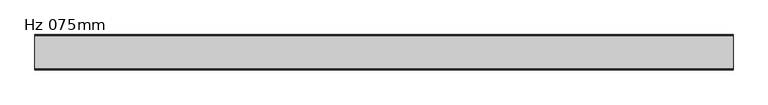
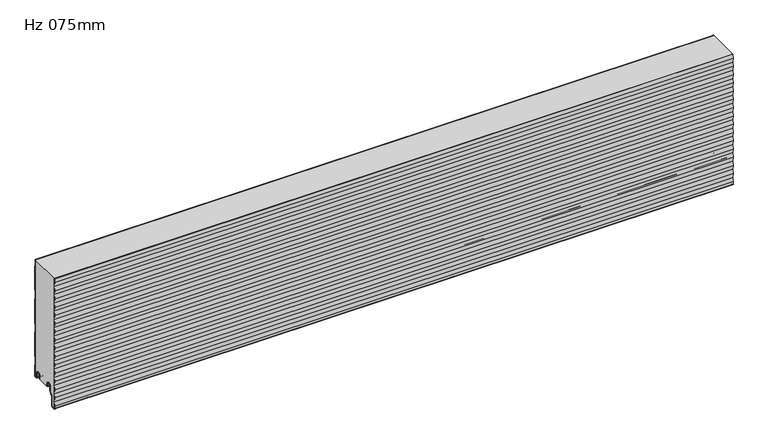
"""IFC4 building model written with IfcOpenShell, lengths in millimetres: plate geometry, KIP-MEX-KSS-1067-R19-CP-Hz-MR_SL : Hz 075mm."""

from ifc_helpers import new_model, si_unit, point, frame, frame_2d, origin, place, context, project, spatial, polyline, circle_curve, trimmed, segment, composite_curve, outline, extrude, source, transform, mapped, element, save
from ifc_brep_helpers import plane_surface, cylinder_surface, revolved_surface, advanced_brep


def hz_075mm_6d015572(model_context):
    return source(origin(), model_context, "Body", "SolidModel", [
        advanced_brep(
        [(-740.0, -17.0015159, 2.0313088), (-740.0, -18.0015191, 1.0313116), (-740.0, -19.0015105, 2.0313088), (-740.0, -19.0015105, 6.0315125), (-740.0, -18.0015159, 6.0315125), (-740.0, -18.0015159, 8.7237223), (-740.0, -14.7015202, 12.023718), (-740.0, -10.301529, 12.023718), (-740.0, -7.0015335, 8.7237225), (-740.0, -7.0015335, -1.6962564), (-740.0, -5.2315393, -3.4662506), (-740.0, -0.9999916, -3.4662506), (-740.0, -0.9999916, 21.034026), (-740.0, -2.2002307, 22.4196686), (-740.0, -2.2002307, 41.7948349), (-740.0, -1.0, 43.1804679), (-740.0, -1.0, 97.2338833), (-740.0, -2.2002307, 98.6195162), (-740.0, -2.2002307, 117.9946825), (-740.0, -1.0, 119.3803155), (-740.0, -1.0, 173.4337309), (-740.0, -2.2002307, 174.8193638), (-740.0, -2.2002307, 194.1945301), (-740.0, -1.0, 195.5801631), (-740.0, -1.0, 249.6335785), (-740.0, -2.2002307, 251.0192114), (-740.0, -2.2002307, 266.0), (-740.0, -1.2002307, 266.0), (-740.0, -1.2002307, 251.3920919), (-740.0, -0.3417885, 250.4010442), (-740.0, 0.0, 249.4844273), (-740.0, 0.0, 195.7293142), (-740.0, -0.3417885, 194.8126973), (-740.0, -1.2002307, 193.8216497), (-740.0, -1.2002307, 175.1922443), (-740.0, -0.3417885, 174.2011966), (-740.0, 0.0, 173.2845797), (-740.0, 0.0, 119.5294666), (-740.0, -0.3417885, 118.6128497), (-740.0, -1.2002307, 117.6218021), (-740.0, -1.2002307, 98.9923967), (-740.0, -0.3417885, 98.001349), (-740.0, 0.0, 97.0847321), (-740.0, 0.0, 43.329619), (-740.0, -0.3417885, 42.4130021), (-740.0, -1.2002307, 41.4219545), (-740.0, -1.2002307, 22.7925491), (-740.0, -0.3417885, 21.8015014), (-740.0, 0.0, 20.8847931), (-740.0, 8.4e-06, -3.0662545), (-740.0, -1.3999878, -4.4662506), (-740.0, -5.2315393, -4.4662506), (-740.0, -8.0015335, -1.6962564), (-740.0, -8.0015335, 8.7237225), (-740.0, -10.301529, 11.023718), (-740.0, -14.7015202, 11.023718), (-740.0, -17.0015159, 8.7237223), (740.0, -17.0015159, 2.0313088), (740.0, -17.0015159, 8.7237223), (740.0, -14.7015202, 11.023718), (740.0, -10.301529, 11.023718), (740.0, -8.0015335, 8.7237225), (740.0, -8.0015335, -1.6962564), (740.0, -5.2315393, -4.4662506), (740.0, -1.3999878, -4.4662506), (740.0, 8.4e-06, -3.0662545), (740.0, 8.4e-06, 20.8848845), (740.0, -0.3417885, 21.8015014), (740.0, -1.2002307, 22.7925491), (740.0, -1.2002307, 41.4219545), (740.0, -0.3417885, 42.4130021), (740.0, 0.0, 43.329619), (740.0, 0.0, 97.0847321), (740.0, -0.3417885, 98.001349), (740.0, -1.2002307, 98.9923967), (740.0, -1.2002307, 117.6218021), (740.0, -0.3417885, 118.6128497), (740.0, 0.0, 119.5294666), (740.0, 0.0, 173.2845797), (740.0, -0.3417885, 174.2011966), (740.0, -1.2002307, 175.1922443), (740.0, -1.2002307, 193.8216497), (740.0, -0.3417885, 194.8126973), (740.0, 0.0, 195.7293142), (740.0, 0.0, 249.4844273), (740.0, -0.3417885, 250.4010442), (740.0, -1.2002307, 251.3920919), (740.0, -1.2002307, 266.0), (740.0, -2.2002307, 266.0), (740.0, -2.2002307, 251.0192114), (740.0, -1.0, 249.6335785), (740.0, -1.0, 195.5801631), (740.0, -2.2002307, 194.1945301), (740.0, -2.2002307, 174.8193638), (740.0, -1.0, 173.4337309), (740.0, -1.0, 119.3803155), (740.0, -2.2002307, 117.9946825), (740.0, -2.2002307, 98.6195162), (740.0, -1.0, 97.2338833), (740.0, -1.0, 43.1804679), (740.0, -2.2002307, 41.7948349), (740.0, -2.2002307, 22.4196686), (740.0, -0.9999916, 21.034026), (740.0, -0.9999916, -3.4662506), (740.0, -5.2315393, -3.4662506), (740.0, -7.0015335, -1.6962564), (740.0, -7.0015335, 8.7237225), (740.0, -10.301529, 12.023718), (740.0, -14.7015202, 12.023718), (740.0, -18.0015159, 8.7237223), (740.0, -18.0015159, 6.0315125), (740.0, -19.0015105, 6.0315125), (740.0, -19.0015105, 2.0313088), (740.0, -18.0015192, 1.0313116)],
        [
            (0, 1, circle_curve(frame((-740.0, -18.0015132, 2.0313088), z_axis=(-1.0, 0.0, 0.0), x_axis=(0.0, 0.0, 1.0)), 0.9999973)),
            (1, 2, circle_curve(frame((-740.0, -18.0015133, 2.0313088), z_axis=(-1.0, 0.0, 0.0), x_axis=(0.0, 0.0, 1.0)), 0.9999972)),
            (2, 3),
            (3, 4),
            (4, 5),
            (5, 6, circle_curve(frame((-740.0, -14.7015202, 8.7237223), z_axis=(-1.0, 0.0, 0.0), x_axis=(0.0, 0.0, 1.0)), 3.2999957)),
            (6, 7),
            (7, 8, circle_curve(frame((-740.0, -10.301529, 8.7237225), z_axis=(-1.0, 0.0, 0.0), x_axis=(0.0, 0.0, 1.0)), 3.2999955)),
            (8, 9),
            (9, 10, circle_curve(frame((-740.0, -5.2315393, -1.6962564), z_axis=(1.0, 0.0, 0.0), x_axis=(0.0, 0.0, 1.0)), 1.7699942)),
            (10, 11),
            (11, 12),
            (12, 13),
            (13, 14),
            (14, 15),
            (15, 16),
            (16, 17),
            (17, 18),
            (18, 19),
            (19, 20),
            (20, 21),
            (21, 22),
            (22, 23),
            (23, 24),
            (24, 25),
            (25, 26),
            (26, 27),
            (27, 28),
            (28, 29),
            (29, 30, circle_curve(frame((-740.0, -1.3999972, 249.4844273), z_axis=(-1.0, 0.0, 0.0), x_axis=(0.0, 0.0, 1.0)), 1.3999972)),
            (30, 31),
            (31, 32, circle_curve(frame((-740.0, -1.3999972, 195.7293142), z_axis=(-1.0, 0.0, 0.0), x_axis=(0.0, 0.0, 1.0)), 1.3999972)),
            (32, 33),
            (33, 34),
            (34, 35),
            (35, 36, circle_curve(frame((-740.0, -1.3999972, 173.2845797), z_axis=(-1.0, 0.0, 0.0), x_axis=(0.0, 0.0, 1.0)), 1.3999972)),
            (36, 37),
            (37, 38, circle_curve(frame((-740.0, -1.3999972, 119.5294666), z_axis=(-1.0, 0.0, 0.0), x_axis=(0.0, 0.0, 1.0)), 1.3999972)),
            (38, 39),
            (39, 40),
            (40, 41),
            (41, 42, circle_curve(frame((-740.0, -1.3999972, 97.0847321), z_axis=(-1.0, 0.0, 0.0), x_axis=(0.0, 0.0, 1.0)), 1.3999972)),
            (42, 43),
            (43, 44, circle_curve(frame((-740.0, -1.3999972, 43.329619), z_axis=(-1.0, 0.0, 0.0), x_axis=(0.0, 0.0, 1.0)), 1.3999972)),
            (44, 45),
            (45, 46),
            (46, 47),
            (47, 48, circle_curve(frame((-740.0, -1.3999972, 20.8848845), z_axis=(-1.0, 0.0, 0.0), x_axis=(0.0, 0.0, 1.0)), 1.3999972)),
            (48, 49),
            (49, 50, circle_curve(frame((-740.0, -1.3999878, -3.0662545), z_axis=(-1.0, 0.0, 0.0), x_axis=(0.0, 0.0, 1.0)), 1.3999962)),
            (50, 51),
            (51, 52, circle_curve(frame((-740.0, -5.2315393, -1.6962564), z_axis=(-1.0, 0.0, 0.0), x_axis=(0.0, 0.0, 1.0)), 2.7699942)),
            (52, 53),
            (53, 54, circle_curve(frame((-740.0, -10.301529, 8.7237225), z_axis=(1.0, 0.0, 0.0), x_axis=(0.0, 0.0, 1.0)), 2.2999955)),
            (54, 55),
            (55, 56, circle_curve(frame((-740.0, -14.7015202, 8.7237223), z_axis=(1.0, 0.0, 0.0), x_axis=(0.0, 0.0, 1.0)), 2.2999957)),
            (56, 0),
            (57, 58),
            (58, 59, circle_curve(frame((740.0, -14.7015202, 8.7237223), z_axis=(-1.0, 0.0, 0.0), x_axis=(0.0, 0.0, 1.0)), 2.2999957)),
            (59, 60),
            (60, 61, circle_curve(frame((740.0, -10.301529, 8.7237225), z_axis=(-1.0, 0.0, 0.0), x_axis=(0.0, 0.0, 1.0)), 2.2999955)),
            (61, 62),
            (62, 63, circle_curve(frame((740.0, -5.2315393, -1.6962564), z_axis=(1.0, 0.0, 0.0), x_axis=(0.0, 0.0, 1.0)), 2.7699942)),
            (63, 64),
            (64, 65, circle_curve(frame((740.0, -1.3999878, -3.0662545), z_axis=(1.0, 0.0, 0.0), x_axis=(0.0, 0.0, 1.0)), 1.3999962)),
            (65, 66),
            (66, 67, circle_curve(frame((740.0, -1.3999972, 20.8848845), z_axis=(1.0, 0.0, 0.0), x_axis=(0.0, 0.0, 1.0)), 1.3999972)),
            (67, 68),
            (68, 69),
            (69, 70),
            (70, 71, circle_curve(frame((740.0, -1.3999972, 43.329619), z_axis=(1.0, 0.0, 0.0), x_axis=(0.0, 0.0, 1.0)), 1.3999972)),
            (71, 72),
            (72, 73, circle_curve(frame((740.0, -1.3999972, 97.0847321), z_axis=(1.0, 0.0, 0.0), x_axis=(0.0, 0.0, 1.0)), 1.3999972)),
            (73, 74),
            (74, 75),
            (75, 76),
            (76, 77, circle_curve(frame((740.0, -1.3999972, 119.5294666), z_axis=(1.0, 0.0, 0.0), x_axis=(0.0, 0.0, 1.0)), 1.3999972)),
            (77, 78),
            (78, 79, circle_curve(frame((740.0, -1.3999972, 173.2845797), z_axis=(1.0, 0.0, 0.0), x_axis=(0.0, 0.0, 1.0)), 1.3999972)),
            (79, 80),
            (80, 81),
            (81, 82),
            (82, 83, circle_curve(frame((740.0, -1.3999972, 195.7293142), z_axis=(1.0, 0.0, 0.0), x_axis=(0.0, 0.0, 1.0)), 1.3999972)),
            (83, 84),
            (84, 85, circle_curve(frame((740.0, -1.3999972, 249.4844273), z_axis=(1.0, 0.0, 0.0), x_axis=(0.0, 0.0, 1.0)), 1.3999972)),
            (85, 86),
            (86, 87),
            (87, 88),
            (88, 89),
            (89, 90),
            (90, 91),
            (91, 92),
            (92, 93),
            (93, 94),
            (94, 95),
            (95, 96),
            (96, 97),
            (97, 98),
            (98, 99),
            (99, 100),
            (100, 101),
            (101, 102),
            (102, 103),
            (103, 104),
            (104, 105, circle_curve(frame((740.0, -5.2315393, -1.6962564), z_axis=(-1.0, 0.0, 0.0), x_axis=(0.0, 0.0, 1.0)), 1.7699942)),
            (105, 106),
            (106, 107, circle_curve(frame((740.0, -10.301529, 8.7237225), z_axis=(1.0, 0.0, 0.0), x_axis=(0.0, 0.0, 1.0)), 3.2999955)),
            (107, 108),
            (108, 109, circle_curve(frame((740.0, -14.7015202, 8.7237223), z_axis=(1.0, 0.0, 0.0), x_axis=(0.0, 0.0, 1.0)), 3.2999957)),
            (109, 110),
            (110, 111),
            (111, 112),
            (112, 113, circle_curve(frame((740.0, -18.0015133, 2.0313088), z_axis=(1.0, 0.0, 0.0), x_axis=(0.0, 0.0, 1.0)), 0.9999972)),
            (113, 57, circle_curve(frame((740.0, -18.0015132, 2.0313088), z_axis=(1.0, 0.0, 0.0), x_axis=(0.0, 0.0, 1.0)), 0.9999973)),
            (56, 58),
            (57, 0),
            (55, 59),
            (54, 60),
            (53, 61),
            (52, 62),
            (51, 63),
            (50, 64),
            (49, 65),
            (48, 66),
            (47, 67),
            (46, 68),
            (45, 69),
            (44, 70),
            (43, 71),
            (42, 72),
            (41, 73),
            (40, 74),
            (39, 75),
            (38, 76),
            (37, 77),
            (36, 78),
            (35, 79),
            (34, 80),
            (33, 81),
            (32, 82),
            (31, 83),
            (30, 84),
            (29, 85),
            (28, 86),
            (27, 87),
            (88, 26),
            (25, 89),
            (24, 90),
            (23, 91),
            (22, 92),
            (21, 93),
            (20, 94),
            (19, 95),
            (18, 96),
            (17, 97),
            (16, 98),
            (15, 99),
            (14, 100),
            (13, 101),
            (12, 102),
            (11, 103),
            (10, 104),
            (9, 105),
            (8, 106),
            (7, 107),
            (6, 108),
            (5, 109),
            (4, 110),
            (3, 111),
            (2, 112),
            (1, 113),
        ],
        [
            plane_surface(frame((-740.0, 0.0, 533.4), z_axis=(-1.0, 0.0, 0.0), x_axis=(0.0, 1.0, 0.0))),
            plane_surface(frame((740.0, 0.0, 533.4), z_axis=(1.0, 0.0, 0.0), x_axis=(0.0, 1.0, 0.0))),
            plane_surface(frame((-740.0, -17.0015159, 2.0313088), z_axis=(0.0, 1.0, 0.0), x_axis=(1.0, 0.0, 0.0))),
            revolved_surface(polyline([(740.0, -14.7015202, 11.023718), (-740.0, -14.7015202, 11.023718)]), (-740.0, -14.7015202, 8.7237223), (1.0, 0.0, 0.0)),
            plane_surface(frame((-740.0, -14.7015202, 11.023718), z_axis=(0.0, 0.0, -1.0), x_axis=(1.0, 0.0, 0.0))),
            revolved_surface(polyline([(740.0, -10.301529, 11.023717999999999), (-740.0, -10.301529, 11.023717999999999)]), (-740.0, -10.301529, 8.7237225), (1.0, 0.0, 0.0)),
            plane_surface(frame((-740.0, -8.0015335, 8.7237225), z_axis=(0.0, -1.0, 0.0), x_axis=(1.0, 0.0, 0.0))),
            cylinder_surface(frame((-740.0, -5.2315393, -1.6962564), z_axis=(-1.0, 0.0, 0.0), x_axis=(0.0, 0.0, 1.0)), 2.7699942),
            plane_surface(frame((-740.0, -5.2315393, -4.4662506), z_axis=(0.0, 0.0, -1.0), x_axis=(1.0, 0.0, 0.0))),
            cylinder_surface(frame((-740.0, -1.3999878, -3.0662545), z_axis=(-1.0, 0.0, 0.0), x_axis=(0.0, 0.0, 1.0)), 1.3999962),
            plane_surface(frame((-740.0, 8.4e-06, -3.0662545), z_axis=(0.0, 1.0, 0.0), x_axis=(1.0, 0.0, 0.0))),
            cylinder_surface(frame((-740.0, -1.3999972, 20.8848845), z_axis=(-1.0, 0.0, 0.0), x_axis=(0.0, 0.0, 1.0)), 1.3999972),
            plane_surface(frame((-740.0, -0.3417885, 21.8015014), z_axis=(0.0, 0.755864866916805, 0.6547276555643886), x_axis=(1.0, 0.0, 0.0))),
            plane_surface(frame((-740.0, -1.2002307, 32.1072518), z_axis=(0.0, 1.0, 0.0), x_axis=(1.0, 0.0, 0.0))),
            plane_surface(frame((-740.0, -1.2002307, 41.4219545), z_axis=(0.0, 0.755864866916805, -0.6547276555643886), x_axis=(1.0, 0.0, 0.0))),
            cylinder_surface(frame((-740.0, -1.3999972, 43.329619), z_axis=(-1.0, 0.0, 0.0), x_axis=(0.0, 0.0, 1.0)), 1.3999972),
            plane_surface(frame((-740.0, 0.0, 43.329619), z_axis=(0.0, 1.0, 0.0), x_axis=(1.0, 0.0, 0.0))),
            cylinder_surface(frame((-740.0, -1.3999972, 97.0847321), z_axis=(-1.0, 0.0, 0.0), x_axis=(0.0, 0.0, 1.0)), 1.3999972),
            plane_surface(frame((-740.0, -0.3417885, 98.001349), z_axis=(0.0, 0.755864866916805, 0.6547276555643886), x_axis=(1.0, 0.0, 0.0))),
            plane_surface(frame((-740.0, -1.2002307, 108.3070994), z_axis=(0.0, 1.0, 0.0), x_axis=(1.0, 0.0, 0.0))),
            plane_surface(frame((-740.0, -1.2002307, 117.6218021), z_axis=(0.0, 0.755864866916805, -0.6547276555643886), x_axis=(1.0, 0.0, 0.0))),
            cylinder_surface(frame((-740.0, -1.3999972, 119.5294666), z_axis=(-1.0, 0.0, 0.0), x_axis=(0.0, 0.0, 1.0)), 1.3999972),
            plane_surface(frame((-740.0, 0.0, 119.5294666), z_axis=(0.0, 1.0, 0.0), x_axis=(1.0, 0.0, 0.0))),
            cylinder_surface(frame((-740.0, -1.3999972, 173.2845797), z_axis=(-1.0, 0.0, 0.0), x_axis=(0.0, 0.0, 1.0)), 1.3999972),
            plane_surface(frame((-740.0, -0.3417885, 174.2011966), z_axis=(0.0, 0.755864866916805, 0.6547276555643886), x_axis=(1.0, 0.0, 0.0))),
            plane_surface(frame((-740.0, -1.2002307, 184.506947), z_axis=(0.0, 1.0, 0.0), x_axis=(1.0, 0.0, 0.0))),
            plane_surface(frame((-740.0, -1.2002307, 193.8216497), z_axis=(0.0, 0.755864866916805, -0.6547276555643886), x_axis=(1.0, 0.0, 0.0))),
            cylinder_surface(frame((-740.0, -1.3999972, 195.7293142), z_axis=(-1.0, 0.0, 0.0), x_axis=(0.0, 0.0, 1.0)), 1.3999972),
            plane_surface(frame((-740.0, 0.0, 195.7293142), z_axis=(0.0, 1.0, 0.0), x_axis=(1.0, 0.0, 0.0))),
            cylinder_surface(frame((-740.0, -1.3999972, 249.4844273), z_axis=(-1.0, 0.0, 0.0), x_axis=(0.0, 0.0, 1.0)), 1.3999972),
            plane_surface(frame((-740.0, -0.3417885, 250.4010442), z_axis=(0.0, 0.755864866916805, 0.6547276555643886), x_axis=(1.0, 0.0, 0.0))),
            plane_surface(frame((-740.0, -1.2002307, 260.7067946), z_axis=(0.0, 1.0, 0.0), x_axis=(1.0, 0.0, 0.0))),
            plane_surface(frame((-740.0, -2.2002307, 270.3943777), z_axis=(0.0, -1.0, 0.0), x_axis=(1.0, 0.0, 0.0))),
            plane_surface(frame((-740.0, -2.2002307, 251.0192114), z_axis=(0.0, -0.755864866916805, -0.6547276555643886), x_axis=(1.0, 0.0, 0.0))),
            plane_surface(frame((-740.0, -1.0, 249.6335785), z_axis=(0.0, -1.0, 0.0), x_axis=(1.0, 0.0, 0.0))),
            plane_surface(frame((-740.0, -1.0, 195.5801631), z_axis=(0.0, -0.755864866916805, 0.6547276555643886), x_axis=(1.0, 0.0, 0.0))),
            plane_surface(frame((-740.0, -2.2002307, 194.1945301), z_axis=(0.0, -1.0, 0.0), x_axis=(1.0, 0.0, 0.0))),
            plane_surface(frame((-740.0, -2.2002307, 174.8193638), z_axis=(0.0, -0.755864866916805, -0.6547276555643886), x_axis=(1.0, 0.0, 0.0))),
            plane_surface(frame((-740.0, -1.0, 173.4337309), z_axis=(0.0, -1.0, 0.0), x_axis=(1.0, 0.0, 0.0))),
            plane_surface(frame((-740.0, -1.0, 119.3803155), z_axis=(0.0, -0.755864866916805, 0.6547276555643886), x_axis=(1.0, 0.0, 0.0))),
            plane_surface(frame((-740.0, -2.2002307, 117.9946825), z_axis=(0.0, -1.0, 0.0), x_axis=(1.0, 0.0, 0.0))),
            plane_surface(frame((-740.0, -2.2002307, 98.6195162), z_axis=(0.0, -0.755864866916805, -0.6547276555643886), x_axis=(1.0, 0.0, 0.0))),
            plane_surface(frame((-740.0, -1.0, 97.2338833), z_axis=(0.0, -1.0, 0.0), x_axis=(1.0, 0.0, 0.0))),
            plane_surface(frame((-740.0, -1.0, 43.1804679), z_axis=(0.0, -0.755864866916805, 0.6547276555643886), x_axis=(1.0, 0.0, 0.0))),
            plane_surface(frame((-740.0, -2.2002307, 41.7948349), z_axis=(0.0, -1.0, 0.0), x_axis=(1.0, 0.0, 0.0))),
            plane_surface(frame((-740.0, -2.2002307, 22.4196686), z_axis=(0.0, -0.755864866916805, -0.6547276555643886), x_axis=(1.0, 0.0, 0.0))),
            plane_surface(frame((-740.0, -0.9999916, 21.034026), z_axis=(0.0, -1.0, 0.0), x_axis=(1.0, 0.0, 0.0))),
            plane_surface(frame((-740.0, -0.9999916, -3.4662506), z_axis=(0.0, 0.0, 1.0), x_axis=(1.0, 0.0, 0.0))),
            revolved_surface(polyline([(740.0, -5.2315393, 0.07373779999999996), (-740.0, -5.2315393, 0.07373779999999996)]), (-740.0, -5.2315393, -1.6962564), (1.0, 0.0, 0.0)),
            plane_surface(frame((-740.0, -7.0015335, -1.6962564), z_axis=(0.0, 1.0, 0.0), x_axis=(1.0, 0.0, 0.0))),
            cylinder_surface(frame((-740.0, -10.301529, 8.7237225), z_axis=(-1.0, 0.0, 0.0), x_axis=(0.0, 0.0, 1.0)), 3.2999955),
            plane_surface(frame((-740.0, -10.301529, 12.023718), z_axis=(0.0, 0.0, 1.0), x_axis=(1.0, 0.0, 0.0))),
            cylinder_surface(frame((-740.0, -14.7015202, 8.7237223), z_axis=(-1.0, 0.0, 0.0), x_axis=(0.0, 0.0, 1.0)), 3.2999957),
            plane_surface(frame((-740.0, -18.0015159, 8.7237223), z_axis=(0.0, -1.0, 0.0), x_axis=(1.0, 0.0, 0.0))),
            plane_surface(frame((-740.0, -18.0015159, 6.0315125), z_axis=(0.0, 0.0, 1.0), x_axis=(1.0, 0.0, 0.0))),
            plane_surface(frame((-740.0, -19.0015105, 6.0315125), z_axis=(0.0, -1.0, 0.0), x_axis=(1.0, 0.0, 0.0))),
            cylinder_surface(frame((-740.0, -18.0015133, 2.0313088), z_axis=(-1.0, 0.0, 0.0), x_axis=(0.0, 0.0, 1.0)), 0.9999972),
            cylinder_surface(frame((-740.0, -18.0015132, 2.0313088), z_axis=(-1.0, 0.0, 0.0), x_axis=(0.0, 0.0, 1.0)), 0.9999973),
            plane_surface(frame((740.0, 10.0, 266.0), z_axis=(0.0, 0.0, 1.0), x_axis=(-1.0, 0.0, 0.0))),
        ],
        [
            (0, [[1, 2, 3, 4, 5, 6, 7, 8, 9, 10, 11, 12, 13, 14, 15, 16, 17, 18, 19, 20, 21, 22, 23, 24, 25, 26, 27, 28, 29, 30, 31, 32, 33, 34, 35, 36, 37, 38, 39, 40, 41, 42, 43, 44, 45, 46, 47, 48, 49, 50, 51, 52, 53, 54, 55, 56, 57]]),
            (1, [[58, 59, 60, 61, 62, 63, 64, 65, 66, 67, 68, 69, 70, 71, 72, 73, 74, 75, 76, 77, 78, 79, 80, 81, 82, 83, 84, 85, 86, 87, 88, 89, 90, 91, 92, 93, 94, 95, 96, 97, 98, 99, 100, 101, 102, 103, 104, 105, 106, 107, 108, 109, 110, 111, 112, 113, 114]]),
            (2, [[115, -58, 116, -57]]),
            (3, [[117, -59, -115, -56]]),
            (4, [[118, -60, -117, -55]]),
            (5, [[119, -61, -118, -54]]),
            (6, [[120, -62, -119, -53]]),
            (7, [[121, -63, -120, -52]]),
            (8, [[122, -64, -121, -51]]),
            (9, [[123, -65, -122, -50]]),
            (10, [[124, -66, -123, -49]]),
            (11, [[125, -67, -124, -48]]),
            (12, [[126, -68, -125, -47]]),
            (13, [[127, -69, -126, -46]]),
            (14, [[128, -70, -127, -45]]),
            (15, [[129, -71, -128, -44]]),
            (16, [[130, -72, -129, -43]]),
            (17, [[131, -73, -130, -42]]),
            (18, [[132, -74, -131, -41]]),
            (19, [[133, -75, -132, -40]]),
            (20, [[134, -76, -133, -39]]),
            (21, [[135, -77, -134, -38]]),
            (22, [[136, -78, -135, -37]]),
            (23, [[137, -79, -136, -36]]),
            (24, [[138, -80, -137, -35]]),
            (25, [[139, -81, -138, -34]]),
            (26, [[140, -82, -139, -33]]),
            (27, [[141, -83, -140, -32]]),
            (28, [[142, -84, -141, -31]]),
            (29, [[143, -85, -142, -30]]),
            (30, [[144, -86, -143, -29]]),
            (31, [[-28, 145, -87, -144]]),
            (32, [[-89, 146, -26, 147]]),
            (33, [[148, -90, -147, -25]]),
            (34, [[149, -91, -148, -24]]),
            (35, [[150, -92, -149, -23]]),
            (36, [[151, -93, -150, -22]]),
            (37, [[152, -94, -151, -21]]),
            (38, [[153, -95, -152, -20]]),
            (39, [[154, -96, -153, -19]]),
            (40, [[155, -97, -154, -18]]),
            (41, [[156, -98, -155, -17]]),
            (42, [[157, -99, -156, -16]]),
            (43, [[158, -100, -157, -15]]),
            (44, [[159, -101, -158, -14]]),
            (45, [[160, -102, -159, -13]]),
            (46, [[161, -103, -160, -12]]),
            (47, [[162, -104, -161, -11]]),
            (48, [[163, -105, -162, -10]]),
            (49, [[164, -106, -163, -9]]),
            (50, [[165, -107, -164, -8]]),
            (51, [[166, -108, -165, -7]]),
            (52, [[167, -109, -166, -6]]),
            (53, [[168, -110, -167, -5]]),
            (54, [[169, -111, -168, -4]]),
            (55, [[170, -112, -169, -3]]),
            (56, [[171, -113, -170, -2]]),
            (57, [[-116, -114, -171, -1]]),
            (58, [[-146, -88, -145, -27]]),
        ],
    ),
        extrude(outline(composite_curve([segment(polyline([(-75.0, -8.9442792), (-73.9411849, 0.5807017), (-75.0, 10.1056827), (-73.9411849, 19.6306636), (-75.0, 29.1556446), (-73.9411849, 38.6806255), (-75.0, 48.2056065), (-73.9411849, 57.7305874), (-75.0, 67.2555684), (-73.9411849, 76.7805493), (-75.0, 86.3055303), (-73.9411849, 95.8305112), (-75.0, 105.3554922), (-73.9411849, 114.8804731), (-75.0, 124.4054541), (-73.9411849, 133.930435), (-75.0, 143.455416), (-73.9411849, 152.9803969), (-75.0, 162.5053779), (-73.9411849, 172.0303588), (-75.0, 181.5553398), (-73.9411849, 191.0803207), (-75.0, 200.6053017), (-73.9411849, 210.1302826), (-75.0, 219.6552636), (-73.9411849, 229.1802445), (-75.0, 238.7052255), (-73.9411849, 248.2302064), (-75.0, 257.7551874), (-74.0834909, 266.0), (-73.0773313, 266.0), (-73.9938405, 257.7551874), (-72.9350254, 248.2302064), (-73.9938405, 238.7052255), (-72.9350254, 229.1802445), (-73.9938405, 219.6552636), (-72.9350254, 210.1302826), (-73.9938405, 200.6053017), (-72.9350254, 191.0803207), (-73.9938405, 181.5553398), (-72.9350254, 172.0303588), (-73.9938405, 162.5053779), (-72.9350254, 152.9803969), (-73.9938405, 143.455416), (-72.9350254, 133.930435), (-73.9938405, 124.4054541), (-72.9350254, 114.8804731), (-73.9938405, 105.3554922), (-72.9350254, 95.8305112), (-73.9938405, 86.3055303), (-72.9350254, 76.7805493), (-73.9938405, 67.2555684), (-72.9350254, 57.7305874), (-73.9938405, 48.2056065), (-72.9350254, 38.6806255), (-73.9938405, 29.1556446), (-72.9350254, 19.6306636), (-73.9938405, 10.1056827), (-72.9350254, 0.5807017), (-73.9938405, -8.9442792), (-72.9350254, -18.4692602), (-73.9722676, -27.800174), (-73.9722676, -32.4501937)]), True, "CONTINUOUS"), segment(trimmed(circle_curve(frame_2d((-71.4022755, -32.4521995)), 2.5699929), [point((-73.9722676, -32.4501937))], [point((-71.1782859, -35.0124127))], True, "CARTESIAN"), True, "CONTINUOUS"), segment(polyline([(-71.1782859, -35.0124127), (-66.1965632, -34.5765685)]), True, "CONTINUOUS"), segment(trimmed(circle_curve(frame_2d((-66.677967, -31.9198392)), 2.6999926), [point((-66.1965632, -34.5765685))], [point((-63.9779744, -31.9198392))], True, "CARTESIAN"), True, "CONTINUOUS"), segment(polyline([(-63.9779744, -31.9198392), (-63.9779744, -10.7773997)]), True, "CONTINUOUS"), segment(trimmed(circle_curve(frame_2d((-61.677977, -10.7773997)), 2.2999974), [point((-63.9779744, -10.7773997))], [point((-63.3043208, -9.1510559))], False, "CARTESIAN"), True, "CONTINUOUS"), segment(polyline([(-63.3043208, -9.1510559), (-58.4759033, -4.3226385)]), True, "CONTINUOUS"), segment(trimmed(circle_curve(frame_2d((-59.677981, -3.1205608)), 1.6999946), [point((-58.4759033, -4.3226385))], [point((-57.9779864, -3.1205608))], True, "CARTESIAN"), True, "CONTINUOUS"), segment(polyline([(-57.9779864, -3.1205608), (-57.9779864, 8.6903283)]), True, "CONTINUOUS"), segment(trimmed(circle_curve(frame_2d((-54.6279911, 8.6903283)), 3.3499953), [point((-57.9779864, 8.6903283))], [point((-54.6279911, 12.0403236))], False, "CARTESIAN"), True, "CONTINUOUS"), segment(polyline([(-54.6279911, 12.0403236), (-50.2279999, 12.0403236)]), True, "CONTINUOUS"), segment(trimmed(circle_curve(frame_2d((-50.2279999, 8.6903283)), 3.3499953), [point((-50.2279999, 12.0403236))], [point((-46.8780046, 8.6903283))], False, "CARTESIAN"), True, "CONTINUOUS"), segment(polyline([(-46.8780046, 8.6903283), (-46.8780046, 5.9912173), (-45.4795257, 5.9912173), (-45.4795257, 2.2328239)]), True, "CONTINUOUS"), segment(trimmed(circle_curve(frame_2d((-46.6795224, 2.2313092)), 1.1999976), [point((-45.4795257, 2.2328239))], [point((-46.6486225, 1.0317095))], False, "CARTESIAN"), True, "CONTINUOUS"), segment(trimmed(circle_curve(frame_2d((-46.6795224, 2.2313092)), 1.1999976), [point((-46.6486225, 1.0317095))], [point((-47.8780046, 2.1710221))], False, "CARTESIAN"), True, "CONTINUOUS"), segment(polyline([(-47.8780046, 2.1710221), (-47.8780046, 8.6903283)]), True, "CONTINUOUS"), segment(trimmed(circle_curve(frame_2d((-50.2279999, 8.6903283)), 2.3499953), [point((-47.8780046, 8.6903283))], [point((-50.2279999, 11.0403236))], True, "CARTESIAN"), True, "CONTINUOUS"), segment(polyline([(-50.2279999, 11.0403236), (-54.6279911, 11.0403236)]), True, "CONTINUOUS"), segment(trimmed(circle_curve(frame_2d((-54.6279911, 8.6903283)), 2.3499953), [point((-54.6279911, 11.0403236))], [point((-56.9779864, 8.6903283))], True, "CARTESIAN"), True, "CONTINUOUS"), segment(polyline([(-56.9779864, 8.6903283), (-56.9779864, -3.1205608)]), True, "CONTINUOUS"), segment(trimmed(circle_curve(frame_2d((-59.677981, -3.1205608)), 2.6999946), [point((-56.9779864, -3.1205608))], [point((-57.7687965, -5.0297453))], False, "CARTESIAN"), True, "CONTINUOUS"), segment(polyline([(-57.7687965, -5.0297453), (-62.597214, -9.8581627)]), True, "CONTINUOUS"), segment(trimmed(circle_curve(frame_2d((-61.677977, -10.7773997)), 1.2999974), [point((-62.597214, -9.8581627))], [point((-62.9779744, -10.7773997))], True, "CARTESIAN"), True, "CONTINUOUS"), segment(polyline([(-62.9779744, -10.7773997), (-62.9779744, -31.9198392)]), True, "CONTINUOUS"), segment(trimmed(circle_curve(frame_2d((-66.677967, -31.9198392)), 3.6999926), [point((-62.9779744, -31.9198392))], [point((-66.0671659, -35.5690675))], False, "CARTESIAN"), True, "CONTINUOUS"), segment(polyline([(-66.0671659, -35.5690675), (-71.0911302, -36.0086074)]), True, "CONTINUOUS"), segment(trimmed(circle_curve(frame_2d((-71.4022755, -32.4521995)), 3.5699929), [point((-71.0911302, -36.0086074))], [point((-74.9722676, -32.4498355))], False, "CARTESIAN"), True, "CONTINUOUS"), segment(polyline([(-74.9722676, -32.4498355), (-74.9722676, -27.7447637), (-73.9411849, -18.4692602), (-75.0, -8.9442792)]), True, "CONTINUOUS")], self_intersect=False)), frame((-740.0, 0.0, 0.0), z_axis=(1.0, 0.0, 0.0), x_axis=(0.0, 1.0, 0.0)), (0.0, 0.0, 1.0), 1480.0),
        extrude(outline(composite_curve([segment(polyline([(-50.2341594, 12.0403236), (-54.6341506, 12.0403236)]), True, "CONTINUOUS"), segment(trimmed(circle_curve(frame_2d((-54.6341506, 8.6903283)), 3.3499953), [point((-54.6341506, 12.0403236))], [point((-57.9841459, 8.6903283))], True, "CARTESIAN"), True, "CONTINUOUS"), segment(polyline([(-57.9841459, 8.6903283), (-57.9841459, -3.1205608)]), True, "CONTINUOUS"), segment(trimmed(circle_curve(frame_2d((-59.6841405, -3.1205608)), 1.6999946), [point((-57.9841459, -3.1205608))], [point((-58.4820628, -4.3226385))], False, "CARTESIAN"), True, "CONTINUOUS"), segment(polyline([(-58.4820628, -4.3226385), (-63.3104803, -9.1510559)]), True, "CONTINUOUS"), segment(trimmed(circle_curve(frame_2d((-61.6841365, -10.7773997)), 2.2999974), [point((-63.3104803, -9.1510559))], [point((-63.9841339, -10.7773997))], True, "CARTESIAN"), True, "CONTINUOUS"), segment(polyline([(-63.9841339, -10.7773997), (-63.9841339, -31.9198392)]), True, "CONTINUOUS"), segment(trimmed(circle_curve(frame_2d((-66.6841265, -31.9198392)), 2.6999926), [point((-63.9841339, -31.9198392))], [point((-66.2027227, -34.5765685))], False, "CARTESIAN"), True, "CONTINUOUS"), segment(polyline([(-66.2027227, -34.5765685), (-71.1844454, -35.0124127)]), True, "CONTINUOUS"), segment(trimmed(circle_curve(frame_2d((-71.4084351, -32.4521995)), 2.5699929), [point((-71.1844454, -35.0124127))], [point((-73.9784271, -32.4501937))], False, "CARTESIAN"), True, "CONTINUOUS"), segment(polyline([(-73.9784271, -32.4501937), (-73.9784271, -27.800174), (-72.9411849, -18.4692602), (-74.0, -8.9442792), (-72.9411849, 0.5807017), (-74.0, 10.1056827), (-72.9411849, 19.6306636), (-74.0, 29.1556446), (-72.9411849, 38.6806255), (-74.0, 48.2056065), (-72.9411849, 57.7305874), (-74.0, 67.2555684), (-72.9411849, 76.7805493), (-74.0, 86.3055303), (-72.9411849, 95.8305112), (-74.0, 105.3554922), (-72.9411849, 114.8804731), (-74.0, 124.4054541), (-72.9411849, 133.930435), (-74.0, 143.455416), (-72.9411849, 152.9803969), (-74.0, 162.5053779), (-72.9411849, 172.0303588), (-74.0, 181.5553398), (-72.9411849, 191.0803207), (-74.0, 200.6053017), (-72.9411849, 210.1302826), (-74.0, 219.6552636), (-72.9411849, 229.1802445), (-74.0, 238.7052255), (-72.9411849, 248.2302064), (-74.0, 257.7551874), (-73.0834909, 266.0), (-2.2002307, 266.0), (-2.2002307, 251.0192115), (-1.0, 249.6335785), (-1.0, 195.5801631), (-2.2002307, 194.1945302), (-2.2002307, 174.8193639), (-1.0, 173.4337309), (-1.0, 119.3803155), (-2.2002307, 117.9946826), (-2.2002307, 98.6195163), (-1.0, 97.2338833), (-1.0, 43.1804679), (-2.2002307, 41.794835), (-2.2002307, 22.4196687), (-0.9999916, 21.034026), (-0.9999916, -3.4662506), (-5.2315389, -3.4662506)]), True, "CONTINUOUS"), segment(trimmed(circle_curve(frame_2d((-5.2315389, -1.6962564)), 1.7699942), [point((-5.2315389, -3.4662506))], [point((-7.0015331, -1.6962564))], False, "CARTESIAN"), True, "CONTINUOUS"), segment(polyline([(-7.0015331, -1.6962564), (-7.0015331, 8.7237222)]), True, "CONTINUOUS"), segment(trimmed(circle_curve(frame_2d((-10.301529, 8.7237222)), 3.2999959), [point((-7.0015331, 8.7237222))], [point((-10.301529, 12.023718))], True, "CARTESIAN"), True, "CONTINUOUS"), segment(polyline([(-10.301529, 12.023718), (-14.7015202, 12.023718)]), True, "CONTINUOUS"), segment(trimmed(circle_curve(frame_2d((-14.7015202, 8.7237223)), 3.2999957), [point((-14.7015202, 12.023718))], [point((-18.0015159, 8.7237223))], True, "CARTESIAN"), True, "CONTINUOUS"), segment(polyline([(-18.0015159, 8.7237223), (-18.0015159, 6.0315125), (-19.0015105, 6.0315125), (-19.0015105, 2.0313089)]), True, "CONTINUOUS"), segment(trimmed(circle_curve(frame_2d((-18.0015133, 2.0313089)), 0.9999972), [point((-19.0015105, 2.0313089))], [point((-18.0015192, 1.0313117))], True, "CARTESIAN"), True, "CONTINUOUS"), segment(polyline([(-18.0015192, 1.0313117), (-19.0328308, 0.0), (-45.6230724, 0.0), (-46.654782, 1.0317095)]), True, "CONTINUOUS"), segment(trimmed(circle_curve(frame_2d((-46.6856819, 2.2313092)), 1.1999976), [point((-46.654782, 1.0317095))], [point((-45.4856852, 2.2328239))], True, "CARTESIAN"), True, "CONTINUOUS"), segment(polyline([(-45.4856852, 2.2328239), (-45.4856852, 5.9912173), (-46.8841641, 5.9912173), (-46.8841641, 8.6903283)]), True, "CONTINUOUS"), segment(trimmed(circle_curve(frame_2d((-50.2341594, 8.6903283)), 3.3499953), [point((-46.8841641, 8.6903283))], [point((-50.2341594, 12.0403236))], True, "CARTESIAN"), True, "CONTINUOUS")], self_intersect=False)), frame((-740.0, 0.0, 0.0), z_axis=(1.0, 0.0, 0.0), x_axis=(0.0, 1.0, 0.0)), (0.0, 0.0, 1.0), 1480.0),
    ])


if __name__ == "__main__":
    model = new_model("IFC4")
    model_context = context("Model", 3, world=origin())
    ifc_project = project(units=[si_unit("LENGTHUNIT", "METRE", prefix="MILLI")], contexts=[model_context])
    site = spatial("IfcSite", under=ifc_project)
    building = spatial("IfcBuilding", under=site)
    placement = place(None, origin())
    hz_075mm_shape = hz_075mm_6d015572(model_context)
    element("IfcPlate", 1, ObjectType="KIP-MEX-KSS-1067-R19-CP-Hz-MR_SL : Hz 075mm", at=placement, inside=building, context=model_context, shape_type="MappedRepresentation", body=[
        mapped(hz_075mm_shape, transform((0.0, 0.0, 0.0), x_axis=(1.0, 0.0, 0.0), y_axis=(0.0, 1.0, 0.0), z_axis=(0.0, 0.0, 1.0))),
    ])
    save(model, "model.ifc")
